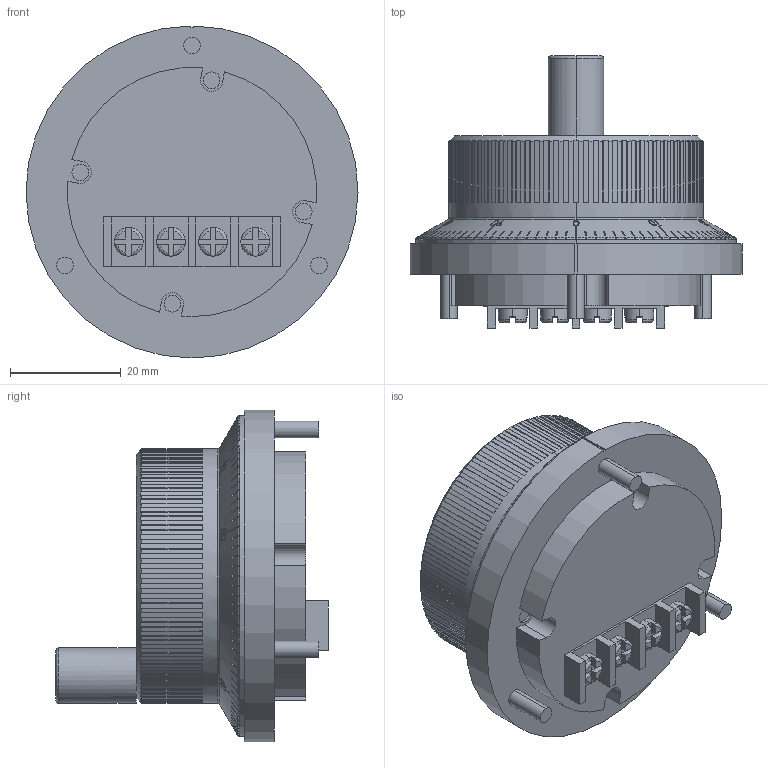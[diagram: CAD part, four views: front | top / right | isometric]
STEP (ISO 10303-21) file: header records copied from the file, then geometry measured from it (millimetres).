
FILE_DESCRIPTION (( 'STEP AP214' ), '1' );
FILE_NAME ('MHU60.STEP', '2012-06-06T13:09:55', ( '' ), ( '' ), 'SwSTEP 2.0', 'SolidWorks 2012', '' );
FILE_SCHEMA (( 'AUTOMOTIVE_DESIGN' ));
Length unit declared in the file: millimetre
Products named in the file (1): MHU60
Bounding box: 60 x 49.2 x 60 mm (x, y, z)
Volume: 60533 mm3; surface area: 13284.2 mm2
Topology: 1 solids, 1 shells, 1147 faces, 3272 edges, 2177 vertices
Faces by surface type: plane 780, bspline 153, cone 139, cylinder 49, torus 26
Entity records: 46426 total; most frequent: CARTESIAN_POINT 19226, ORIENTED_EDGE 6544, DIRECTION 4317, EDGE_CURVE 3272, VERTEX_POINT 2177, AXIS2_PLACEMENT_3D 1535, B_SPLINE_CURVE_WITH_KNOTS 1485, LINE 1247
